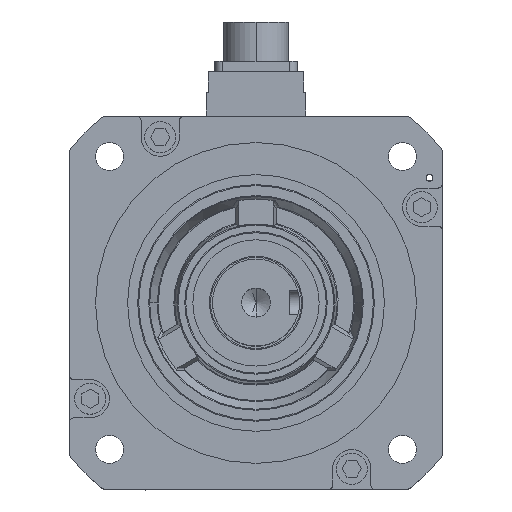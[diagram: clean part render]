
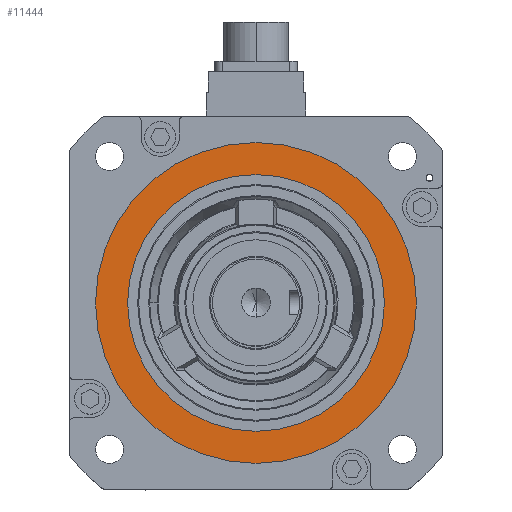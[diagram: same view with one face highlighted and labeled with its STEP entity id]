
A CAD part, top view. The second image highlights one B-rep face of the part: STEP entity #11444.
In plain terms, the highlighted planar face has unit normal (0, 0, 1) as drawn and (0, 0, -1) by its records, which use the part's own axes.
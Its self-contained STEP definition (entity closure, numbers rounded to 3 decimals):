
#816 = EDGE_CURVE ( 'NONE', #7171, #47864, #10559, .T. ) ;
#2273 = FACE_BOUND ( 'NONE', #45600, .T. ) ;
#2988 = DIRECTION ( 'NONE',  ( 0., 0., 1. ) ) ;
#5959 = DIRECTION ( 'NONE',  ( 0., 0., 1. ) ) ;
#6257 = AXIS2_PLACEMENT_3D ( 'NONE', #19342, #23674, #28344 ) ;
#7036 = CARTESIAN_POINT ( 'NONE',  ( 77.5, 0., 3.8 ) ) ;
#7171 = VERTEX_POINT ( 'NONE', #30495 ) ;
#8734 = AXIS2_PLACEMENT_3D ( 'NONE', #23459, #5959, #32263 ) ;
#10559 = CIRCLE ( 'NONE', #6257, 62. ) ;
#10919 = DIRECTION ( 'NONE',  ( 0., 0., -1. ) ) ;
#11350 = FACE_OUTER_BOUND ( 'NONE', #51138, .T. ) ;
#11444 = ADVANCED_FACE ( 'NONE', ( #2273, #11350 ), #54459, .T. ) ;
#11793 = DIRECTION ( 'NONE',  ( 1., 0., 0. ) ) ;
#13331 = CIRCLE ( 'NONE', #8734, 77.5 ) ;
#16301 = CARTESIAN_POINT ( 'NONE',  ( 0., 0., 3.8 ) ) ;
#18904 = AXIS2_PLACEMENT_3D ( 'NONE', #16301, #2988, #11793 ) ;
#19004 = CARTESIAN_POINT ( 'NONE',  ( 0., 62., 3.8 ) ) ;
#19342 = CARTESIAN_POINT ( 'NONE',  ( 0., 0., 3.8 ) ) ;
#19574 = CIRCLE ( 'NONE', #31600, 62. ) ;
#20335 = VERTEX_POINT ( 'NONE', #24603 ) ;
#20963 = AXIS2_PLACEMENT_3D ( 'NONE', #19004, #10919, #28582 ) ;
#23416 = EDGE_CURVE ( 'NONE', #38735, #20335, #54518, .T. ) ;
#23459 = CARTESIAN_POINT ( 'NONE',  ( 0., 0., 3.8 ) ) ;
#23674 = DIRECTION ( 'NONE',  ( 0., 0., 1. ) ) ;
#24603 = CARTESIAN_POINT ( 'NONE',  ( -77.5, 0., 3.8 ) ) ;
#28344 = DIRECTION ( 'NONE',  ( 1., 0., 0. ) ) ;
#28582 = DIRECTION ( 'NONE',  ( -1., 0., 0. ) ) ;
#28759 = DIRECTION ( 'NONE',  ( 1., 0., 0. ) ) ;
#30495 = CARTESIAN_POINT ( 'NONE',  ( 62., 0., 3.8 ) ) ;
#31600 = AXIS2_PLACEMENT_3D ( 'NONE', #46595, #42100, #28759 ) ;
#32263 = DIRECTION ( 'NONE',  ( 1., 0., 0. ) ) ;
#38735 = VERTEX_POINT ( 'NONE', #7036 ) ;
#40188 = ORIENTED_EDGE ( 'NONE', *, *, #23416, .F. ) ;
#41154 = EDGE_CURVE ( 'NONE', #20335, #38735, #13331, .T. ) ;
#42100 = DIRECTION ( 'NONE',  ( 0., 0., 1. ) ) ;
#45600 = EDGE_LOOP ( 'NONE', ( #56179, #56612 ) ) ;
#46595 = CARTESIAN_POINT ( 'NONE',  ( 0., 0., 3.8 ) ) ;
#47864 = VERTEX_POINT ( 'NONE', #49338 ) ;
#49338 = CARTESIAN_POINT ( 'NONE',  ( -62., 0., 3.8 ) ) ;
#51138 = EDGE_LOOP ( 'NONE', ( #40188, #57690 ) ) ;
#54459 = PLANE ( 'NONE',  #20963 ) ;
#54518 = CIRCLE ( 'NONE', #18904, 77.5 ) ;
#56179 = ORIENTED_EDGE ( 'NONE', *, *, #816, .T. ) ;
#56271 = EDGE_CURVE ( 'NONE', #47864, #7171, #19574, .T. ) ;
#56612 = ORIENTED_EDGE ( 'NONE', *, *, #56271, .T. ) ;
#57690 = ORIENTED_EDGE ( 'NONE', *, *, #41154, .F. ) ;
